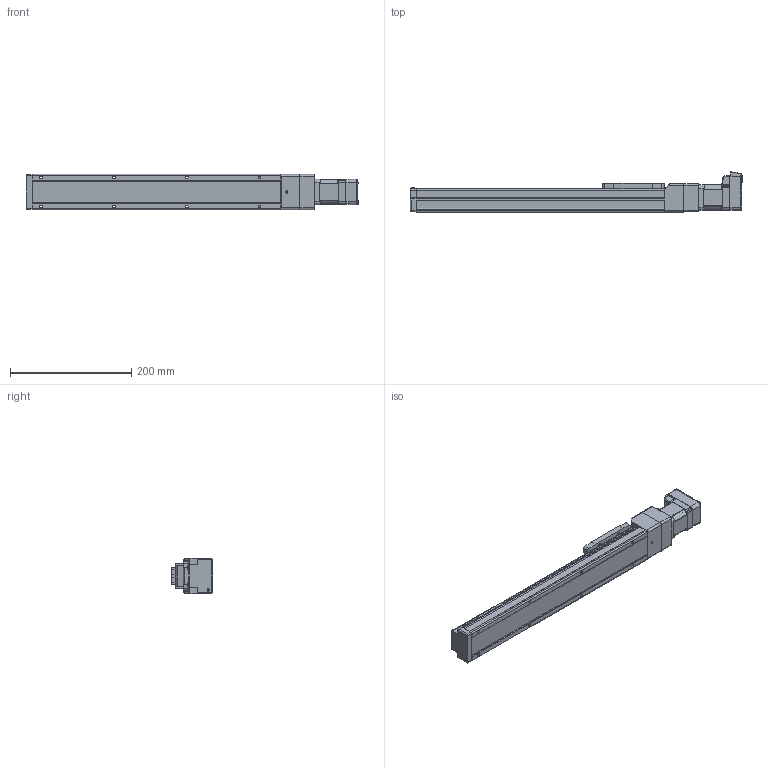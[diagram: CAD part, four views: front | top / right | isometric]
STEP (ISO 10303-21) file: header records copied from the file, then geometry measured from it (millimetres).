
FILE_DESCRIPTION (( 'STEP AP214' ), '1' );
FILE_NAME ('LEFS3(+)-25NM1Œû-300-17L.STEP', '2023-05-31T02:42:59', ( '' ), ( '' ), 'SwSTEP 2.0', 'SolidWorks 2019', '' );
FILE_SCHEMA (( 'AUTOMOTIVE_DESIGN' ));
Length unit declared in the file: millimetre
Products named in the file (5): CM3(+)-17L50A; LEFS3(+)-25NM1仩_BODY_300; LEFS3(+)-25NM1_MOTOR Flange; LEFS3(+)-25NM1_TABLE; LEFS3(+)-25NM1口-300-17L
Assembly tree (4 placements, depth 2):
  LEFS3(+)-25NM1口-300-17L
    LEFS3(+)-25NM1仩_BODY_300
    LEFS3(+)-25NM1_TABLE
    LEFS3(+)-25NM1_MOTOR Flange
    CM3(+)-17L50A
Bounding box: 547.3 x 66.75 x 58 mm (x, y, z)
Volume: 1103071.8 mm3; surface area: 148855.8 mm2
Topology: 5 solids, 5 shells, 995 faces, 2566 edges, 1616 vertices
Faces by surface type: plane 513, cylinder 310, cone 83, torus 39, bspline 29, sphere 21
Entity records: 40380 total; most frequent: CARTESIAN_POINT 7368, ORIENTED_EDGE 5070, DIRECTION 4882, EDGE_CURVE 2535, AXIS2_PLACEMENT_3D 1642, VERTEX_POINT 1616, LINE 1598, VECTOR 1598
